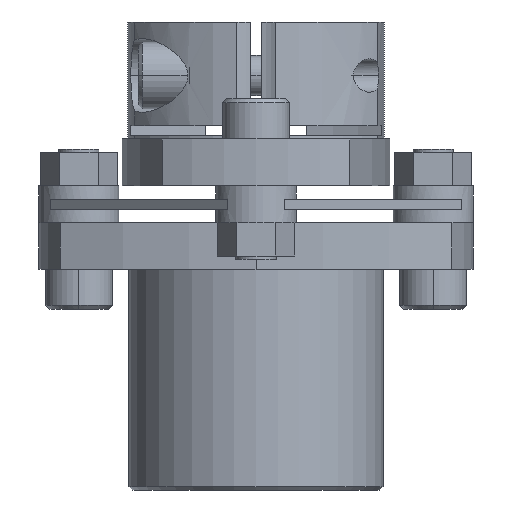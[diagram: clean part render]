
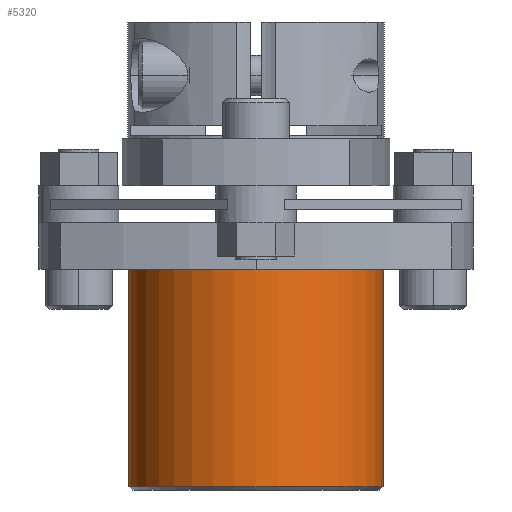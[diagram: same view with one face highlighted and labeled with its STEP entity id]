
A CAD part, front view. The second image highlights one B-rep face of the part: STEP entity #5320.
In plain terms, the highlighted cylindrical face has radius 19 mm (diameter 38 mm), a partial arc.
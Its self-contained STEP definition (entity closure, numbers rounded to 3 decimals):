
#962=CARTESIAN_POINT('',(19.,0.,-42.25));
#963=VERTEX_POINT('',#962);
#964=CARTESIAN_POINT('',(19.,0.,-9.75));
#965=VERTEX_POINT('',#964);
#966=CARTESIAN_POINT('',(19.,0.,-42.25));
#967=DIRECTION('',(0.0,0.0,1.0));
#968=VECTOR('',#967,32.5);
#969=LINE('',#966,#968);
#970=EDGE_CURVE('',#963,#965,#969,.T.);
#972=CARTESIAN_POINT('',(-19.,0.,-42.25));
#973=VERTEX_POINT('',#972);
#981=CARTESIAN_POINT('',(-19.,0.,-9.75));
#982=VERTEX_POINT('',#981);
#983=CARTESIAN_POINT('',(-19.,0.,-9.75));
#984=DIRECTION('',(0.0,0.0,-1.0));
#985=VECTOR('',#984,32.5);
#986=LINE('',#983,#985);
#987=EDGE_CURVE('',#982,#973,#986,.T.);
#1027=CARTESIAN_POINT('',(0.,0.0,-42.25));
#1028=DIRECTION('',(0.0,0.0,-1.0));
#1029=DIRECTION('',(-1.0,0.0,0.0));
#1030=AXIS2_PLACEMENT_3D('',#1027,#1028,#1029);
#1031=CIRCLE('',#1030,19.0);
#1032=EDGE_CURVE('',#963,#973,#1031,.T.);
#5303=CARTESIAN_POINT('',(0.,0.0,-22.75));
#5304=DIRECTION('',(0.0,0.0,1.0));
#5305=DIRECTION('',(1.0,0.0,0.0));
#5306=AXIS2_PLACEMENT_3D('',#5303,#5304,#5305);
#5307=CYLINDRICAL_SURFACE('',#5306,19.0);
#5308=ORIENTED_EDGE('',*,*,#970,.T.);
#5309=CARTESIAN_POINT('',(0.,0.0,-9.75));
#5310=DIRECTION('',(0.0,0.0,1.0));
#5311=DIRECTION('',(1.0,0.0,0.0));
#5312=AXIS2_PLACEMENT_3D('',#5309,#5310,#5311);
#5313=CIRCLE('',#5312,19.0);
#5314=EDGE_CURVE('',#982,#965,#5313,.T.);
#5315=ORIENTED_EDGE('',*,*,#5314,.F.);
#5316=ORIENTED_EDGE('',*,*,#987,.T.);
#5317=ORIENTED_EDGE('',*,*,#1032,.F.);
#5318=EDGE_LOOP('',(#5308,#5315,#5316,#5317));
#5319=FACE_OUTER_BOUND('',#5318,.T.);
#5320=ADVANCED_FACE('',(#5319),#5307,.T.);
